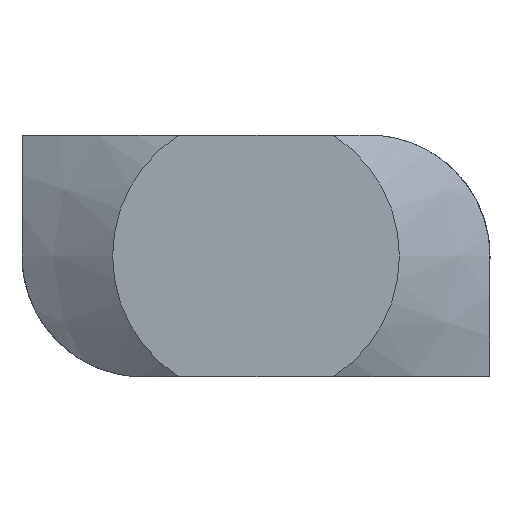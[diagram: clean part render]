
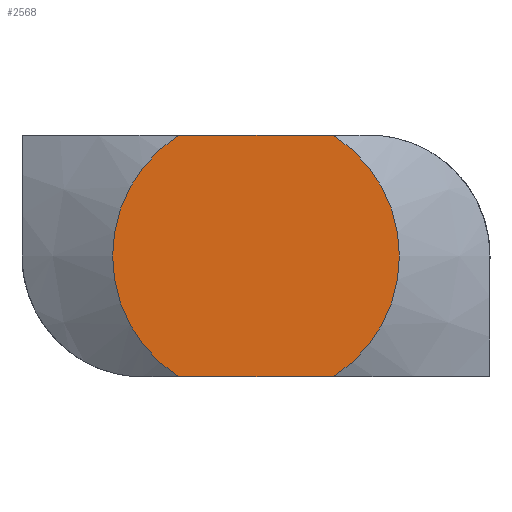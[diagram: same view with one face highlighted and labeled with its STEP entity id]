
A CAD part, front view. The second image highlights one B-rep face of the part: STEP entity #2568.
In plain terms, the highlighted planar face has unit normal (0, -1, 0).
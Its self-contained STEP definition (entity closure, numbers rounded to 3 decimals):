
#317 = DIRECTION ( 'NONE',  ( 0., 0., 1. ) ) ;
#341 = CARTESIAN_POINT ( 'NONE',  ( 2.562, 0., -4. ) ) ;
#350 = AXIS2_PLACEMENT_3D ( 'NONE', #457, #6645, #5933 ) ;
#457 = CARTESIAN_POINT ( 'NONE',  ( 0., 0., 0. ) ) ;
#489 = AXIS2_PLACEMENT_3D ( 'NONE', #3614, #2892, #2182 ) ;
#500 = ORIENTED_EDGE ( 'NONE', *, *, #6159, .F. ) ;
#578 = VERTEX_POINT ( 'NONE', #5634 ) ;
#655 = VERTEX_POINT ( 'NONE', #2796 ) ;
#750 = VERTEX_POINT ( 'NONE', #1101 ) ;
#1034 = DIRECTION ( 'NONE',  ( 0., 1., 0. ) ) ;
#1101 = CARTESIAN_POINT ( 'NONE',  ( -2.562, 0., 4. ) ) ;
#1162 = ORIENTED_EDGE ( 'NONE', *, *, #1218, .F. ) ;
#1218 = EDGE_CURVE ( 'NONE', #6756, #655, #4005, .T. ) ;
#1462 = DIRECTION ( 'NONE',  ( 1., 0., 0. ) ) ;
#1739 = CARTESIAN_POINT ( 'NONE',  ( 0., 0., 0. ) ) ;
#2163 = CARTESIAN_POINT ( 'NONE',  ( -7.75, 0., 4. ) ) ;
#2182 = DIRECTION ( 'NONE',  ( 0., 0., 1. ) ) ;
#2445 = PLANE ( 'NONE',  #3705 ) ;
#2568 = ADVANCED_FACE ( 'NONE', ( #2794 ), #2445, .F. ) ;
#2584 = DIRECTION ( 'NONE',  ( -1., 0., 0. ) ) ;
#2794 = FACE_OUTER_BOUND ( 'NONE', #3943, .T. ) ;
#2796 = CARTESIAN_POINT ( 'NONE',  ( -2.562, 0., -4. ) ) ;
#2867 = LINE ( 'NONE', #2163, #6033 ) ;
#2892 = DIRECTION ( 'NONE',  ( 0., 1., 0. ) ) ;
#3299 = CARTESIAN_POINT ( 'NONE',  ( -7.75, 0., -4. ) ) ;
#3614 = CARTESIAN_POINT ( 'NONE',  ( 0., 0., 0. ) ) ;
#3705 = AXIS2_PLACEMENT_3D ( 'NONE', #1739, #1034, #317 ) ;
#3881 = ORIENTED_EDGE ( 'NONE', *, *, #6065, .F. ) ;
#3943 = EDGE_LOOP ( 'NONE', ( #3881, #3994, #1162, #500 ) ) ;
#3969 = CIRCLE ( 'NONE', #489, 4.75 ) ;
#3994 = ORIENTED_EDGE ( 'NONE', *, *, #5109, .F. ) ;
#4005 = LINE ( 'NONE', #3299, #6587 ) ;
#5109 = EDGE_CURVE ( 'NONE', #655, #750, #3969, .T. ) ;
#5604 = CIRCLE ( 'NONE', #350, 4.75 ) ;
#5634 = CARTESIAN_POINT ( 'NONE',  ( 2.562, 0., 4. ) ) ;
#5933 = DIRECTION ( 'NONE',  ( 0., 0., 1. ) ) ;
#6033 = VECTOR ( 'NONE', #1462, 1000. ) ;
#6065 = EDGE_CURVE ( 'NONE', #750, #578, #2867, .T. ) ;
#6159 = EDGE_CURVE ( 'NONE', #578, #6756, #5604, .T. ) ;
#6587 = VECTOR ( 'NONE', #2584, 1000. ) ;
#6645 = DIRECTION ( 'NONE',  ( 0., 1., 0. ) ) ;
#6756 = VERTEX_POINT ( 'NONE', #341 ) ;
